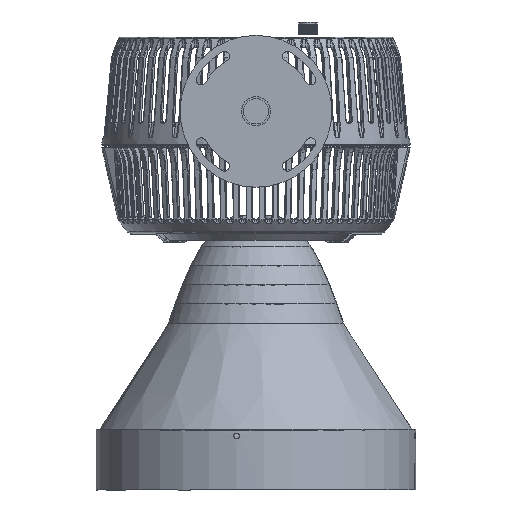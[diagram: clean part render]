
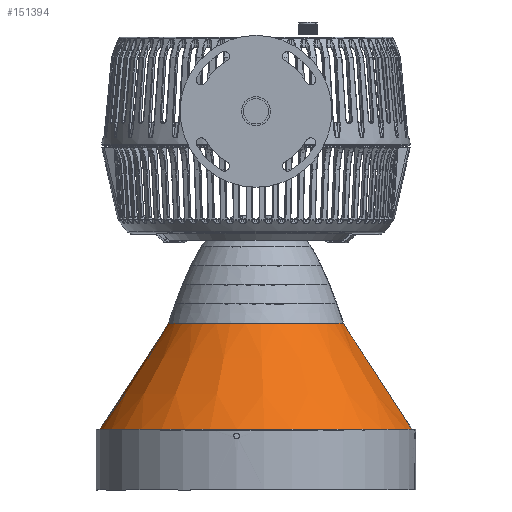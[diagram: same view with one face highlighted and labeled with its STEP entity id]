
A CAD part, left-side view. The second image highlights one B-rep face of the part: STEP entity #151394.
In plain terms, the highlighted conical face has half-angle 33 degrees and reference radius 123.852 mm.
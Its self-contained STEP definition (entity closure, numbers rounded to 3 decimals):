
#1969 = CIRCLE ( 'NONE', #39164, 69.431 ) ;
#13848 = CARTESIAN_POINT ( 'NONE',  ( 123.852, 36.572, 0. ) ) ;
#16739 = ORIENTED_EDGE ( 'NONE', *, *, #193953, .F. ) ;
#22293 = CARTESIAN_POINT ( 'NONE',  ( 123.852, 36.572, 0. ) ) ;
#23813 = CARTESIAN_POINT ( 'NONE',  ( -69.431, -47.228, 0. ) ) ;
#29711 = FACE_OUTER_BOUND ( 'NONE', #273415, .T. ) ;
#34279 = LINE ( 'NONE', #13848, #52746 ) ;
#39164 = AXIS2_PLACEMENT_3D ( 'NONE', #47699, #68117, #136690 ) ;
#47699 = CARTESIAN_POINT ( 'NONE',  ( 0., -47.228, 0. ) ) ;
#51713 = VERTEX_POINT ( 'NONE', #234655 ) ;
#52746 = VECTOR ( 'NONE', #146571, 1000. ) ;
#55172 = CONICAL_SURFACE ( 'NONE', #232171, 123.852, 0.576 ) ;
#59553 = EDGE_CURVE ( 'NONE', #51713, #221377, #107895, .T. ) ;
#63590 = EDGE_CURVE ( 'NONE', #119116, #221377, #34279, .T. ) ;
#66304 = CARTESIAN_POINT ( 'NONE',  ( 69.431, -47.228, 0. ) ) ;
#68117 = DIRECTION ( 'NONE',  ( 0., 1., 0. ) ) ;
#107895 = CIRCLE ( 'NONE', #145159, 123.852 ) ;
#115279 = DIRECTION ( 'NONE',  ( -0.545, 0.839, 0. ) ) ;
#119116 = VERTEX_POINT ( 'NONE', #66304 ) ;
#133786 = CARTESIAN_POINT ( 'NONE',  ( 0., 36.572, 0. ) ) ;
#136690 = DIRECTION ( 'NONE',  ( -1., 0., 0. ) ) ;
#137868 = EDGE_CURVE ( 'NONE', #260609, #119116, #1969, .T. ) ;
#145159 = AXIS2_PLACEMENT_3D ( 'NONE', #133786, #206652, #180444 ) ;
#146571 = DIRECTION ( 'NONE',  ( 0.545, 0.839, 0. ) ) ;
#151394 = ADVANCED_FACE ( 'NONE', ( #29711 ), #55172, .T. ) ;
#160480 = CARTESIAN_POINT ( 'NONE',  ( -123.852, 36.572, 0. ) ) ;
#180444 = DIRECTION ( 'NONE',  ( -1., 0., 0. ) ) ;
#184340 = CARTESIAN_POINT ( 'NONE',  ( 0., 36.572, 0. ) ) ;
#187166 = DIRECTION ( 'NONE',  ( -1., 0., 0. ) ) ;
#193953 = EDGE_CURVE ( 'NONE', #260609, #51713, #230413, .T. ) ;
#203092 = ORIENTED_EDGE ( 'NONE', *, *, #59553, .F. ) ;
#206652 = DIRECTION ( 'NONE',  ( 0., 1., 0. ) ) ;
#207656 = DIRECTION ( 'NONE',  ( 0., 1., 0. ) ) ;
#221377 = VERTEX_POINT ( 'NONE', #22293 ) ;
#230413 = LINE ( 'NONE', #160480, #283816 ) ;
#232171 = AXIS2_PLACEMENT_3D ( 'NONE', #184340, #207656, #187166 ) ;
#234655 = CARTESIAN_POINT ( 'NONE',  ( -123.852, 36.572, 0. ) ) ;
#257261 = ORIENTED_EDGE ( 'NONE', *, *, #63590, .T. ) ;
#258607 = ORIENTED_EDGE ( 'NONE', *, *, #137868, .T. ) ;
#260609 = VERTEX_POINT ( 'NONE', #23813 ) ;
#273415 = EDGE_LOOP ( 'NONE', ( #258607, #257261, #203092, #16739 ) ) ;
#283816 = VECTOR ( 'NONE', #115279, 1000. ) ;
